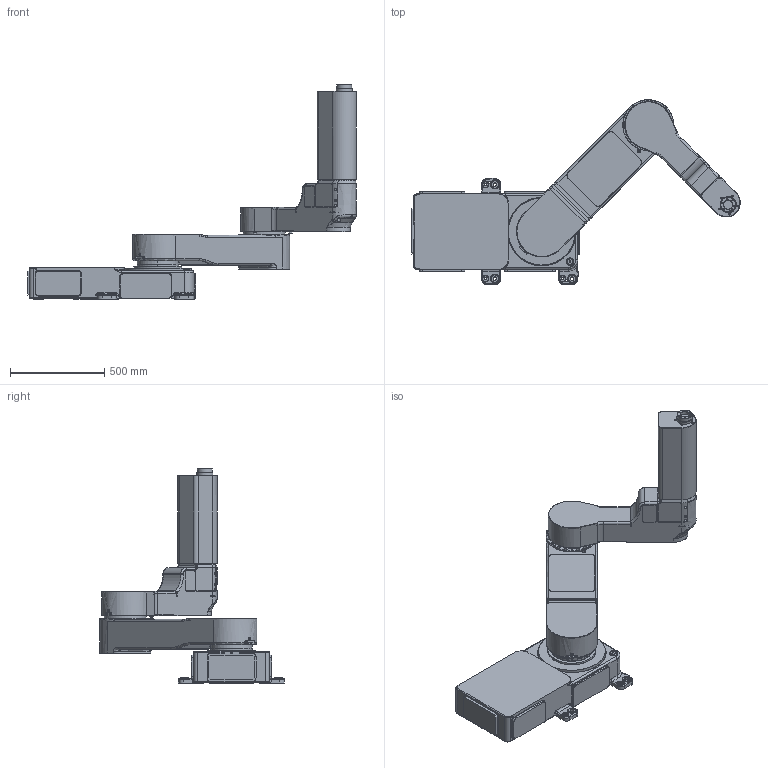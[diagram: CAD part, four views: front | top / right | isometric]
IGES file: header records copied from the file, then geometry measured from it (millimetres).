
Global section: file name: /home/cpfsmtu2/disk1/yax05/yax0504/v/MOTO/MPO10/fertig/MPO10.igs; native system: NX V8.0; preprocessor: SIEMENS PLM Software NX 8.0; date: 20150803.120007; units: millimetre
Bounding box: 1746.34 x 980.69 x 1140 mm (x, y, z)
Surface area: 3355495.7 mm2 (no closed solid volume)
Topology: 0 solids, 0 shells, 1145 faces, 8851 edges, 8733 vertices
Faces by surface type: bspline 1145
